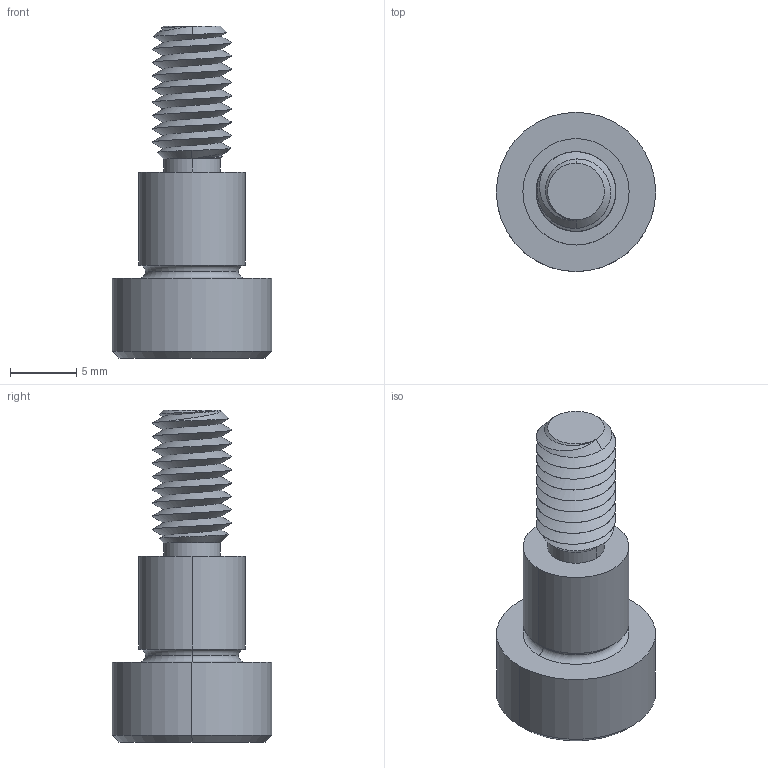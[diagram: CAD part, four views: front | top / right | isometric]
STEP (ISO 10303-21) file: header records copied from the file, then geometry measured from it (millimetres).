
FILE_DESCRIPTION (( 'STEP AP203' ), '1' );
FILE_NAME ('P0130.080-008-B2.step', '2021-11-09T21:35:03', ( '' ), ( '' ), 'SwSTEP 2.0', 'SolidWorks 2019', '' );
FILE_SCHEMA (( 'CONFIG_CONTROL_DESIGN' ));
Length unit declared in the file: millimetre
Products named in the file (1): P0130.080-008-B2
Bounding box: 12 x 12 x 25 mm (x, y, z)
Volume: 1227.7 mm3; surface area: 1033.9 mm2
Topology: 1 solids, 1 shells, 60 faces, 142 edges, 85 vertices
Faces by surface type: cylinder 24, plane 16, cone 14, torus 4, bspline 2
Entity records: 4245 total; most frequent: CARTESIAN_POINT 2899, ORIENTED_EDGE 280, DIRECTION 247, EDGE_CURVE 140, AXIS2_PLACEMENT_3D 99, VERTEX_POINT 85, EDGE_LOOP 63, ADVANCED_FACE 60
